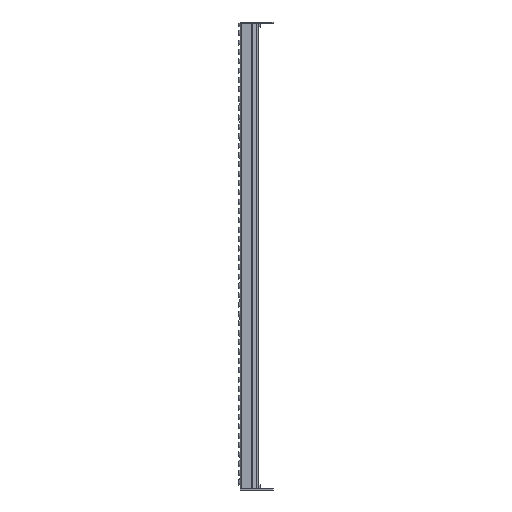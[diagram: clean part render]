
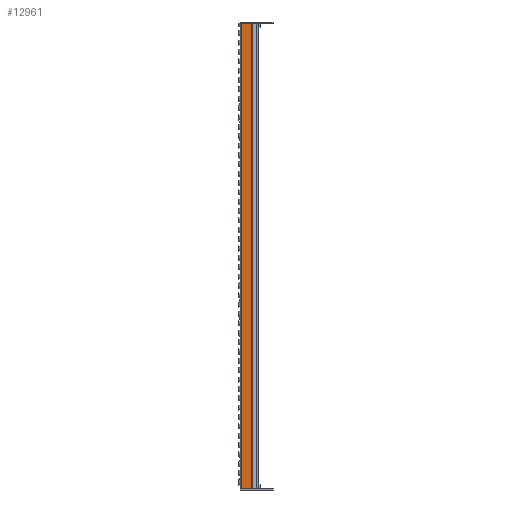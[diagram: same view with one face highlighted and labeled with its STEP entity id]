
A CAD part, left-side view. The second image highlights one B-rep face of the part: STEP entity #12961.
In plain terms, the highlighted planar face has unit normal (-1, 0, 0).
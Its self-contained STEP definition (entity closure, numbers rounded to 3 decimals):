
#2208=FACE_OUTER_BOUND('',#3295,.T.);
#3295=EDGE_LOOP('',(#11428,#11429,#11430,#11431));
#4278=LINE('',#25675,#5354);
#4289=LINE('',#25705,#5365);
#4299=LINE('',#25728,#5375);
#4306=LINE('',#25743,#5382);
#5354=VECTOR('',#17729,10.);
#5365=VECTOR('',#17754,10.);
#5375=VECTOR('',#17776,10.);
#5382=VECTOR('',#17795,10.);
#6563=VERTEX_POINT('',#25672);
#6564=VERTEX_POINT('',#25674);
#6576=VERTEX_POINT('',#25704);
#6583=VERTEX_POINT('',#25727);
#8188=EDGE_CURVE('',#6564,#6563,#4278,.T.);
#8203=EDGE_CURVE('',#6563,#6576,#4289,.T.);
#8215=EDGE_CURVE('',#6583,#6564,#4299,.T.);
#8223=EDGE_CURVE('',#6576,#6583,#4306,.T.);
#11428=ORIENTED_EDGE('',*,*,#8203,.T.);
#11429=ORIENTED_EDGE('',*,*,#8223,.T.);
#11430=ORIENTED_EDGE('',*,*,#8215,.T.);
#11431=ORIENTED_EDGE('',*,*,#8188,.T.);
#12128=PLANE('',#14376);
#12961=ADVANCED_FACE('',(#2208),#12128,.T.);
#14376=AXIS2_PLACEMENT_3D('',#25744,#17796,#17797);
#17729=DIRECTION('',(0.,1.,0.));
#17754=DIRECTION('',(0.,0.,-1.));
#17776=DIRECTION('',(0.,0.,1.));
#17795=DIRECTION('',(0.,-1.,0.));
#17796=DIRECTION('center_axis',(-1.,0.,0.));
#17797=DIRECTION('ref_axis',(0.,0.,1.));
#25672=CARTESIAN_POINT('',(0.,-3.25,994.));
#25674=CARTESIAN_POINT('',(0.,-24.427,994.));
#25675=CARTESIAN_POINT('',(0.,0.,994.));
#25704=CARTESIAN_POINT('',(0.,-3.25,0.));
#25705=CARTESIAN_POINT('',(0.,-3.25,0.));
#25727=CARTESIAN_POINT('',(0.,-24.427,0.));
#25728=CARTESIAN_POINT('',(0.,-24.427,248.5));
#25743=CARTESIAN_POINT('',(0.,0.,0.));
#25744=CARTESIAN_POINT('Origin',(0.,-25.,0.));
